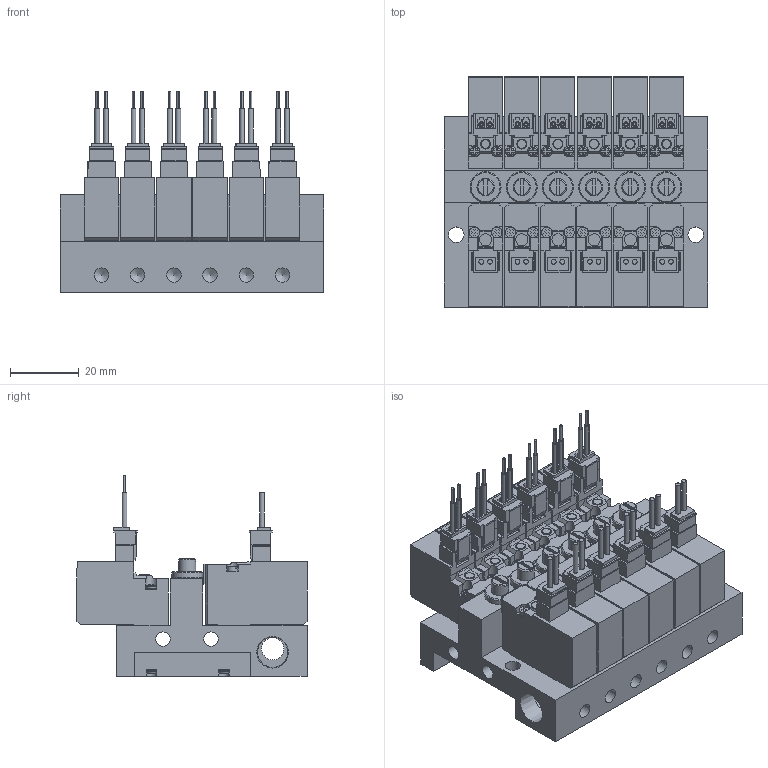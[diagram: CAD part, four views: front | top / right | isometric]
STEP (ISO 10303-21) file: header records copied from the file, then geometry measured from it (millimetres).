
FILE_DESCRIPTION(('STEP AP203'),'1');
FILE_NAME('2-NO(NC)-4EZ-M06.stp','2025-05-09T00:52:07',(' '),(' '),'Spatial InterOp 3D',' ',' ');
FILE_SCHEMA(('CONFIG_CONTROL_DESIGN'));
Length unit declared in the file: millimetre
Products named in the file (68): PV1※2-NO(NC)-4EZ-M06; BODY; PLATE; NEEDLE; BOLT; SOLENOID VALVE VOLTAGE PV; 42; 45; 48; 51; SOLENOID VALVE VOLTAGE PV-NC2
Assembly tree (67 placements, depth 3):
  PV1※2-NO(NC)-4EZ-M06
    BODY
    PLATE
    PLATE
    NEEDLE
    BOLT
    BOLT
    BOLT
    BOLT
    BOLT
    BOLT
    SOLENOID VALVE VOLTAGE PV
      42
      45
      48
      51
    NEEDLE
    SOLENOID VALVE VOLTAGE PV
      42
      45
      48
      51
    NEEDLE
    SOLENOID VALVE VOLTAGE PV
      42
      45
      48
      51
    PLATE
    BOLT
    BOLT
    BOLT
    PLATE
    BOLT
    BOLT
    BOLT
    NEEDLE
    SOLENOID VALVE VOLTAGE PV
      42
      45
      48
      51
    NEEDLE
    SOLENOID VALVE VOLTAGE PV
      42
      45
      48
      51
    PLATE
    BOLT
    BOLT
    BOLT
    SOLENOID VALVE VOLTAGE PV
      42
      45
      48
      51
    NEEDLE
    PLATE
    BOLT
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Bounding box: 76.5 x 66.8 x 58.25 mm (x, y, z)
Volume: 125308.1 mm3; surface area: 63587.6 mm2
Topology: 61 solids, 61 shells, 2419 faces, 6740 edges, 4577 vertices
Faces by surface type: plane 1798, cylinder 427, torus 96, bspline 60, cone 38
Full cylindrical faces by diameter (mm): 1.4 x12, 2 x18, 3 x30, 3.5 x6, 4.2 x14, 4.5 x2, 5 x6, 6.5 x1, 8.797 x2, 9 x6
Entity records: 80778 total; most frequent: CARTESIAN_POINT 14687, DIRECTION 13082, ORIENTED_EDGE 12980, EDGE_CURVE 6490, VERTEX_POINT 4492, LINE 4476, VECTOR 4476, AXIS2_PLACEMENT_3D 4303
